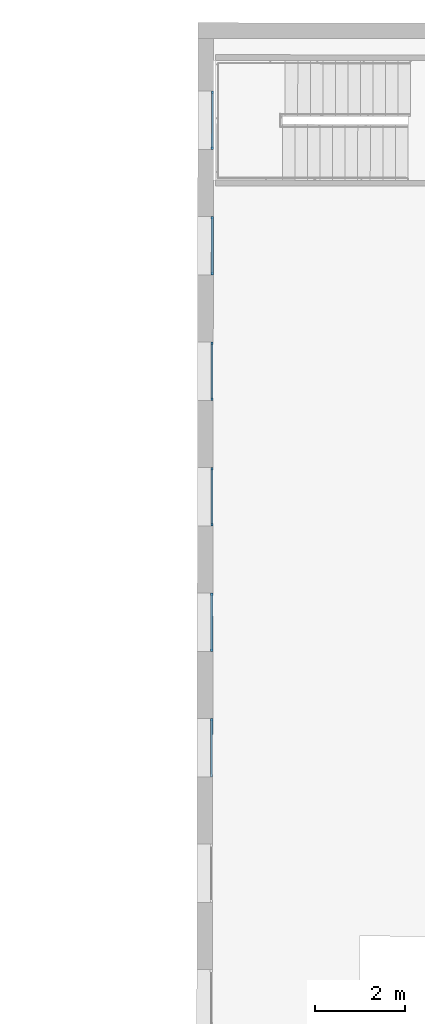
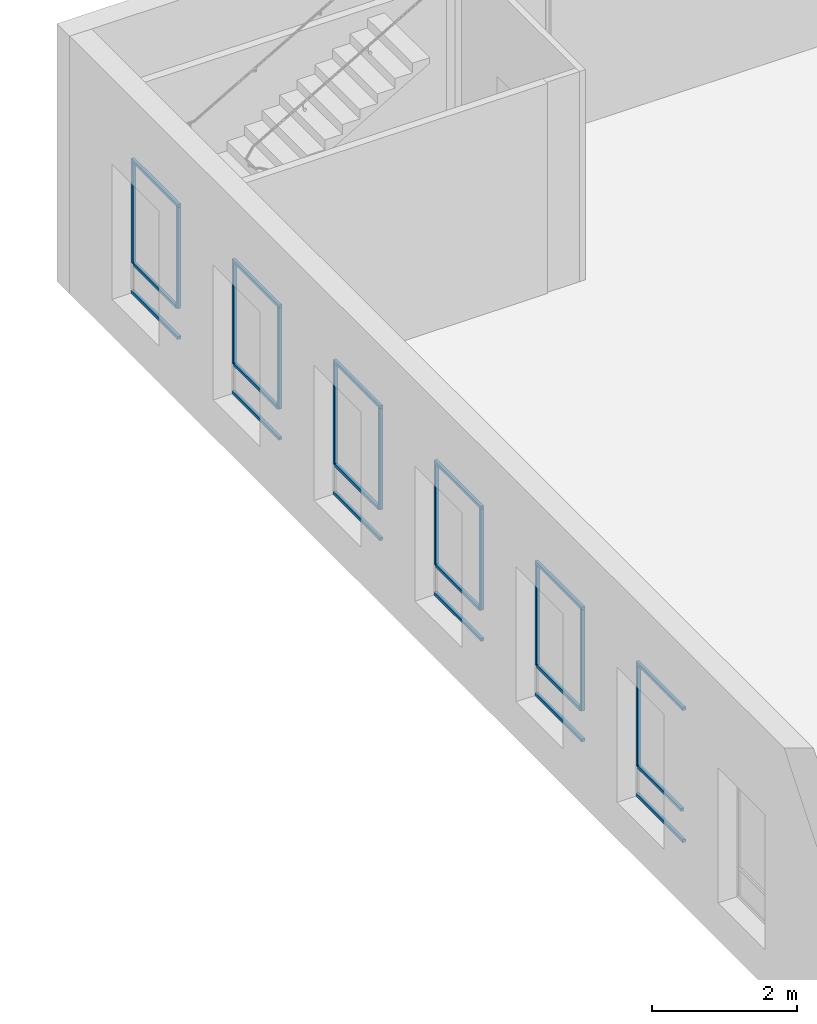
# One storey, part 10 of 35: 29 members, 6 elements without a shape of their own.
"""IFC2X3 building model written with IfcOpenShell, lengths in metres."""

from ifc_helpers import new_model, entity, si_unit, converted_unit, derived_unit, direction, frame, frame_2d, origin, origin_2d_with_axis, place, context, subcontext, project, spatial, rectangle, extrude, source, transform, mapped, material, type_object, type_shapes, element, aggregate, save


model = new_model("IFC2X3")

# Units and contexts
model_context = context("Model", 3, precision=1e-05, world=origin(), true_north=direction((6.123233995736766e-17, 1.0)))
body_context = subcontext(model_context, "Body", "Model", "MODEL_VIEW")
ifc_project = project(units=[si_unit("LENGTHUNIT", "METRE"), si_unit("AREAUNIT", "SQUARE_METRE"), converted_unit("PLANEANGLEUNIT", "DEGREE", entity("IfcPlaneAngleMeasure", 0.017453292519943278), si_unit("PLANEANGLEUNIT", "RADIAN"), dimensions=[0, 0, 0, 0, 0, 0, 0]), derived_unit("THERMALTRANSMITTANCEUNIT", [(si_unit("MASSUNIT", "GRAM", prefix="KILO"), 1), (si_unit("THERMODYNAMICTEMPERATUREUNIT", "KELVIN"), -1), (si_unit("TIMEUNIT", "SECOND"), -3)])], contexts=[model_context])

# Site, building, storey
site_placement = place(None, frame((1253.6752467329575, 2072.143113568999, 91.49999999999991), z_axis=(0.0, 0.0, 1.0), x_axis=(0.7237211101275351, 0.6900925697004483, 0.0)))
site = spatial("IfcSite", under=ifc_project, at=site_placement, Name="Surface", CompositionType="ELEMENT")
building_placement = place(site_placement, origin())
building = spatial("IfcBuilding", under=site, at=building_placement, CompositionType="ELEMENT")
storey_placement = place(building_placement, frame((0.0, 0.0, 3.549999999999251)))
storey = spatial("IfcBuildingStorey", under=building, at=storey_placement, Name="1-R+1", CompositionType="ELEMENT", Elevation=3.549999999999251)

# Curtain wall, member
curtain_wall_type = type_object("IfcCurtainWallType", Name="Mur-rideau:Menuiserie Ext 1F+1OB VERTIC", PredefinedType="NOTDEFINED")
curtain_wall_1_placement = place(storey_placement, frame((0.0, 0.0, -3.549999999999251)))
curtain_wall_1 = element("IfcCurtainWall", 1, at=curtain_wall_1_placement, inside=storey, type_object=curtain_wall_type, Name="Mur-rideau:Menuiserie Ext 1F+1OB VERTIC", ObjectType="Mur-rideau:Menuiserie Ext 1F+1OB VERTIC")
ifc_material = material(Name="OMD_Aluminium Men Ext")
member_type_1 = type_object("IfcMemberType", Name="Meneau rectangulaire:50x50", PredefinedType="MULLION", material=ifc_material)
shared_shape_1 = source(origin(), body_context, "Body", "SweptSolid", [
    extrude(rectangle(XDim=0.05, YDim=0.049999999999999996, at=origin_2d_with_axis()), frame((-0.025, 0.0, -1.2996959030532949), z_axis=(0.0, 0.0, 1.0), x_axis=(-1.0, 0.0, 0.0)), (0.0, 0.0, 1.0), 1.2996959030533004),
])
type_shapes(member_type_1, [shared_shape_1])
member_1_placement = place(curtain_wall_1_placement, frame((190.7788656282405, 2.115108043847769, 6.4499999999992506), z_axis=(0.6909838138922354, 0.7228702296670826, 0.0), x_axis=(0.0, 0.0, 1.0)))
member_1 = element("IfcMember", 2, at=member_1_placement, type_object=member_type_1, material=ifc_material, Name="Meneau rectangulaire:50x50", ObjectType="Meneau rectangulaire:50x50", context=body_context, shape_type="MappedRepresentation", body=[
    mapped(shared_shape_1, transform((0.0, 0.0, 0.0), scale=1.0)),
])

curtain_wall_2_placement = place(storey_placement, frame((0.0, 0.0, -3.549999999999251)))
curtain_wall_2 = element("IfcCurtainWall", 3, at=curtain_wall_2_placement, inside=storey, type_object=curtain_wall_type, Name="Mur-rideau:Menuiserie Ext 1F+1OB VERTIC", ObjectType="Mur-rideau:Menuiserie Ext 1F+1OB VERTIC")
member_2_placement = place(curtain_wall_2_placement, frame((188.84432107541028, 0.09129122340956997, 6.4499999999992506), z_axis=(0.6909838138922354, 0.7228702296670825, 0.0), x_axis=(0.0, 0.0, 1.0)))
member_2 = element("IfcMember", 4, at=member_2_placement, type_object=member_type_1, material=ifc_material, Name="Meneau rectangulaire:50x50", ObjectType="Meneau rectangulaire:50x50", context=body_context, shape_type="MappedRepresentation", body=[
    mapped(shared_shape_1, transform((0.0, 0.0, 0.0), scale=1.0)),
])

curtain_wall_3_placement = place(storey_placement, frame((0.0, 0.0, -3.549999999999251)))
curtain_wall_3 = element("IfcCurtainWall", 5, at=curtain_wall_3_placement, inside=storey, type_object=curtain_wall_type, Name="Mur-rideau:Menuiserie Ext 1F+1OB VERTIC", ObjectType="Mur-rideau:Menuiserie Ext 1F+1OB VERTIC")
member_3_placement = place(curtain_wall_3_placement, frame((186.90956639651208, -1.9327454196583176, 6.4499999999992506), z_axis=(0.6909838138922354, 0.7228702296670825, 0.0), x_axis=(0.0, 0.0, 1.0)))
member_3 = element("IfcMember", 6, at=member_3_placement, type_object=member_type_1, material=ifc_material, Name="Meneau rectangulaire:50x50", ObjectType="Meneau rectangulaire:50x50", context=body_context, shape_type="MappedRepresentation", body=[
    mapped(shared_shape_1, transform((0.0, 0.0, 0.0), scale=1.0)),
])

curtain_wall_4_placement = place(storey_placement, frame((0.0, 0.0, -3.549999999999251)))
curtain_wall_4 = element("IfcCurtainWall", 7, at=curtain_wall_4_placement, inside=storey, type_object=curtain_wall_type, Name="Mur-rideau:Menuiserie Ext 1F+1OB VERTIC", ObjectType="Mur-rideau:Menuiserie Ext 1F+1OB VERTIC")
member_4_placement = place(curtain_wall_4_placement, frame((184.97481171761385, -3.9567820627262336, 6.4499999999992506), z_axis=(0.6909838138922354, 0.7228702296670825, 0.0), x_axis=(0.0, 0.0, 1.0)))
member_4 = element("IfcMember", 8, at=member_4_placement, type_object=member_type_1, material=ifc_material, Name="Meneau rectangulaire:50x50", ObjectType="Meneau rectangulaire:50x50", context=body_context, shape_type="MappedRepresentation", body=[
    mapped(shared_shape_1, transform((0.0, 0.0, 0.0), scale=1.0)),
])

curtain_wall_5_placement = place(storey_placement, frame((0.0, 0.0, -3.549999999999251)))
curtain_wall_5 = element("IfcCurtainWall", 9, at=curtain_wall_5_placement, inside=storey, type_object=curtain_wall_type, Name="Mur-rideau:Menuiserie Ext 1F+1OB VERTIC", ObjectType="Mur-rideau:Menuiserie Ext 1F+1OB VERTIC")
member_5_placement = place(curtain_wall_5_placement, frame((183.04005703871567, -5.980818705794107, 6.4499999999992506), z_axis=(0.690983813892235, 0.7228702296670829, 0.0), x_axis=(0.0, 0.0, 1.0)))
member_5 = element("IfcMember", 10, at=member_5_placement, type_object=member_type_1, material=ifc_material, Name="Meneau rectangulaire:50x50", ObjectType="Meneau rectangulaire:50x50", context=body_context, shape_type="MappedRepresentation", body=[
    mapped(shared_shape_1, transform((0.0, 0.0, 0.0), scale=1.0)),
])

curtain_wall_6_placement = place(storey_placement, frame((0.0, 0.0, -3.549999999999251)))
curtain_wall_6 = element("IfcCurtainWall", 11, at=curtain_wall_6_placement, inside=storey, type_object=curtain_wall_type, Name="Mur-rideau:Menuiserie Ext 1F+1OB VERTIC", ObjectType="Mur-rideau:Menuiserie Ext 1F+1OB VERTIC")
member_6_placement = place(curtain_wall_6_placement, frame((181.1053023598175, -8.004855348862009, 6.4499999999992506), z_axis=(0.6909838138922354, 0.7228702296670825, 0.0), x_axis=(0.0, 0.0, 1.0)))
member_6 = element("IfcMember", 12, at=member_6_placement, type_object=member_type_1, material=ifc_material, Name="Meneau rectangulaire:50x50", ObjectType="Meneau rectangulaire:50x50", context=body_context, shape_type="MappedRepresentation", body=[
    mapped(shared_shape_1, transform((0.0, 0.0, 0.0), scale=1.0)),
])

# Member
member_type_2 = type_object("IfcMemberType", Name="Meneau rectangulaire:50x50", PredefinedType="MULLION", material=ifc_material)
shared_shape_2 = source(origin(), body_context, "Body", "SweptSolid", [
    extrude(rectangle(XDim=0.05, YDim=0.05, at=origin_2d_with_axis()), frame((-0.025, 0.0, -1.2996959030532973), z_axis=(0.0, 0.0, 1.0), x_axis=(-1.0, 0.0, 0.0)), (0.0, 0.0, 1.0), 1.2996959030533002),
])
type_shapes(member_type_2, [shared_shape_2])
member_7_placement = place(curtain_wall_1_placement, frame((189.88079679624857, 1.1755965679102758, 4.169999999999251), z_axis=(-0.6909838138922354, -0.7228702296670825, 0.0), x_axis=(0.0, 0.0, -1.0)))
member_7 = element("IfcMember", 13, at=member_7_placement, type_object=member_type_2, material=ifc_material, Name="Meneau rectangulaire:50x50", ObjectType="Meneau rectangulaire:50x50", context=body_context, shape_type="MappedRepresentation", body=[
    mapped(shared_shape_2, transform((0.0, 0.0, 0.0), scale=1.0)),
])

member_8_placement = place(curtain_wall_2_placement, frame((187.9462522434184, -0.8482202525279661, 4.169999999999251), z_axis=(-0.6909838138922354, -0.7228702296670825, 0.0), x_axis=(0.0, 0.0, -1.0)))
member_8 = element("IfcMember", 14, at=member_8_placement, type_object=member_type_2, material=ifc_material, Name="Meneau rectangulaire:50x50", ObjectType="Meneau rectangulaire:50x50", context=body_context, shape_type="MappedRepresentation", body=[
    mapped(shared_shape_2, transform((0.0, 0.0, 0.0), scale=1.0)),
])

member_9_placement = place(curtain_wall_3_placement, frame((186.0114975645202, -2.8722568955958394, 4.169999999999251), z_axis=(-0.6909838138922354, -0.7228702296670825, 0.0), x_axis=(0.0, 0.0, -1.0)))
member_9 = element("IfcMember", 15, at=member_9_placement, type_object=member_type_2, material=ifc_material, Name="Meneau rectangulaire:50x50", ObjectType="Meneau rectangulaire:50x50", context=body_context, shape_type="MappedRepresentation", body=[
    mapped(shared_shape_2, transform((0.0, 0.0, 0.0), scale=1.0)),
])

member_10_placement = place(curtain_wall_4_placement, frame((184.07674288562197, -4.896293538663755, 4.169999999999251), z_axis=(-0.6909838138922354, -0.7228702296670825, 0.0), x_axis=(0.0, 0.0, -1.0)))
member_10 = element("IfcMember", 16, at=member_10_placement, type_object=member_type_2, material=ifc_material, Name="Meneau rectangulaire:50x50", ObjectType="Meneau rectangulaire:50x50", context=body_context, shape_type="MappedRepresentation", body=[
    mapped(shared_shape_2, transform((0.0, 0.0, 0.0), scale=1.0)),
])

member_11_placement = place(curtain_wall_5_placement, frame((182.1419882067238, -6.9203301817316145, 4.169999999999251), z_axis=(-0.690983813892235, -0.7228702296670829, 0.0), x_axis=(0.0, 0.0, -1.0)))
member_11 = element("IfcMember", 17, at=member_11_placement, type_object=member_type_2, material=ifc_material, Name="Meneau rectangulaire:50x50", ObjectType="Meneau rectangulaire:50x50", context=body_context, shape_type="MappedRepresentation", body=[
    mapped(shared_shape_2, transform((0.0, 0.0, 0.0), scale=1.0)),
])

member_12_placement = place(curtain_wall_6_placement, frame((180.20723352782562, -8.944366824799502, 4.169999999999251), z_axis=(-0.6909838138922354, -0.7228702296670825, 0.0), x_axis=(0.0, 0.0, -1.0)))
member_12 = element("IfcMember", 18, at=member_12_placement, type_object=member_type_2, material=ifc_material, Name="Meneau rectangulaire:50x50", ObjectType="Meneau rectangulaire:50x50", context=body_context, shape_type="MappedRepresentation", body=[
    mapped(shared_shape_2, transform((0.0, 0.0, 0.0), scale=1.0)),
])

member_type_3 = type_object("IfcMemberType", Name="Meneau rectangulaire:50x50", PredefinedType="MULLION", material=ifc_material)
shared_shape_3 = source(origin(), body_context, "Body", "SweptSolid", [
    extrude(rectangle(XDim=0.05, YDim=0.049999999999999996, at=origin_2d_with_axis()), frame((-0.025, 0.0, -1.7099999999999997), z_axis=(0.0, 0.0, 1.0), x_axis=(-1.0, 0.0, 0.0)), (0.0, 0.0, 1.0), 1.7099999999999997),
])
type_shapes(member_type_3, [shared_shape_3])
member_13_placement = place(curtain_wall_1_placement, frame((189.8807967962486, 1.17559656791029, 6.399999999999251), z_axis=(0.0, 0.0, 1.0), x_axis=(-0.6909838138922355, -0.7228702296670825, 0.0)))
member_13 = element("IfcMember", 19, at=member_13_placement, type_object=member_type_3, material=ifc_material, Name="Meneau rectangulaire:50x50", ObjectType="Meneau rectangulaire:50x50", context=body_context, shape_type="MappedRepresentation", body=[
    mapped(shared_shape_3, transform((0.0, 0.0, 0.0), scale=1.0)),
])

member_14_placement = place(curtain_wall_2_placement, frame((187.94625224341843, -0.8482202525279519, 6.399999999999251), z_axis=(0.0, 0.0, 1.0), x_axis=(-0.6909838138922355, -0.7228702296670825, 0.0)))
member_14 = element("IfcMember", 20, at=member_14_placement, type_object=member_type_3, material=ifc_material, Name="Meneau rectangulaire:50x50", ObjectType="Meneau rectangulaire:50x50", context=body_context, shape_type="MappedRepresentation", body=[
    mapped(shared_shape_3, transform((0.0, 0.0, 0.0), scale=1.0)),
])

member_15_placement = place(curtain_wall_3_placement, frame((186.01149756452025, -2.8722568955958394, 6.399999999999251), z_axis=(0.0, 0.0, 1.0), x_axis=(-0.6909838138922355, -0.7228702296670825, 0.0)))
member_15 = element("IfcMember", 21, at=member_15_placement, type_object=member_type_3, material=ifc_material, Name="Meneau rectangulaire:50x50", ObjectType="Meneau rectangulaire:50x50", context=body_context, shape_type="MappedRepresentation", body=[
    mapped(shared_shape_3, transform((0.0, 0.0, 0.0), scale=1.0)),
])

member_16_placement = place(curtain_wall_4_placement, frame((184.07674288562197, -4.896293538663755, 6.399999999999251), z_axis=(0.0, 0.0, 1.0), x_axis=(-0.6909838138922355, -0.7228702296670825, 0.0)))
member_16 = element("IfcMember", 22, at=member_16_placement, type_object=member_type_3, material=ifc_material, Name="Meneau rectangulaire:50x50", ObjectType="Meneau rectangulaire:50x50", context=body_context, shape_type="MappedRepresentation", body=[
    mapped(shared_shape_3, transform((0.0, 0.0, 0.0), scale=1.0)),
])

member_17_placement = place(curtain_wall_5_placement, frame((182.1419882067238, -6.9203301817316, 6.399999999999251), z_axis=(0.0, 0.0, 1.0), x_axis=(-0.6909838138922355, -0.7228702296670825, 0.0)))
member_17 = element("IfcMember", 23, at=member_17_placement, type_object=member_type_3, material=ifc_material, Name="Meneau rectangulaire:50x50", ObjectType="Meneau rectangulaire:50x50", context=body_context, shape_type="MappedRepresentation", body=[
    mapped(shared_shape_3, transform((0.0, 0.0, 0.0), scale=1.0)),
])

member_type_4 = type_object("IfcMemberType", Name="Meneau rectangulaire:50x50", PredefinedType="MULLION", material=ifc_material)
shared_shape_4 = source(origin(), body_context, "Body", "SweptSolid", [
    extrude(rectangle(XDim=0.05, YDim=0.049999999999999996, at=origin_2d_with_axis()), frame((-0.025, 0.0, -1.7099999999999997), z_axis=(0.0, 0.0, 1.0), x_axis=(-1.0, 0.0, 0.0)), (0.0, 0.0, 1.0), 1.7099999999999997),
])
type_shapes(member_type_4, [shared_shape_4])
member_18_placement = place(curtain_wall_1_placement, frame((190.7788656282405, 2.115108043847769, 4.689999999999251), z_axis=(0.0, 0.0, -1.0), x_axis=(0.6909838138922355, 0.7228702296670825, 0.0)))
member_18 = element("IfcMember", 24, at=member_18_placement, type_object=member_type_4, material=ifc_material, Name="Meneau rectangulaire:50x50", ObjectType="Meneau rectangulaire:50x50", context=body_context, shape_type="MappedRepresentation", body=[
    mapped(shared_shape_4, transform((0.0, 0.0, 0.0), scale=1.0)),
])

member_19_placement = place(curtain_wall_2_placement, frame((188.84432107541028, 0.09129122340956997, 4.689999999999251), z_axis=(0.0, 0.0, -1.0), x_axis=(0.6909838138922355, 0.7228702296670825, 0.0)))
member_19 = element("IfcMember", 25, at=member_19_placement, type_object=member_type_4, material=ifc_material, Name="Meneau rectangulaire:50x50", ObjectType="Meneau rectangulaire:50x50", context=body_context, shape_type="MappedRepresentation", body=[
    mapped(shared_shape_4, transform((0.0, 0.0, 0.0), scale=1.0)),
])

member_20_placement = place(curtain_wall_3_placement, frame((186.9095663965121, -1.9327454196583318, 4.689999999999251), z_axis=(0.0, 0.0, -1.0), x_axis=(0.6909838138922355, 0.7228702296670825, 0.0)))
member_20 = element("IfcMember", 26, at=member_20_placement, type_object=member_type_4, material=ifc_material, Name="Meneau rectangulaire:50x50", ObjectType="Meneau rectangulaire:50x50", context=body_context, shape_type="MappedRepresentation", body=[
    mapped(shared_shape_4, transform((0.0, 0.0, 0.0), scale=1.0)),
])

member_21_placement = place(curtain_wall_4_placement, frame((184.97481171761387, -3.9567820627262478, 4.689999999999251), z_axis=(0.0, 0.0, -1.0), x_axis=(0.6909838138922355, 0.7228702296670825, 0.0)))
member_21 = element("IfcMember", 27, at=member_21_placement, type_object=member_type_4, material=ifc_material, Name="Meneau rectangulaire:50x50", ObjectType="Meneau rectangulaire:50x50", context=body_context, shape_type="MappedRepresentation", body=[
    mapped(shared_shape_4, transform((0.0, 0.0, 0.0), scale=1.0)),
])

member_22_placement = place(curtain_wall_5_placement, frame((183.0400570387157, -5.980818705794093, 4.689999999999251), z_axis=(0.0, 0.0, -1.0), x_axis=(0.6909838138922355, 0.7228702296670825, 0.0)))
member_22 = element("IfcMember", 28, at=member_22_placement, type_object=member_type_4, material=ifc_material, Name="Meneau rectangulaire:50x50", ObjectType="Meneau rectangulaire:50x50", context=body_context, shape_type="MappedRepresentation", body=[
    mapped(shared_shape_4, transform((0.0, 0.0, 0.0), scale=1.0)),
])

member_23_placement = place(curtain_wall_6_placement, frame((181.10530235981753, -8.004855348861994, 4.689999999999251), z_axis=(0.0, 0.0, -1.0), x_axis=(0.6909838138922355, 0.7228702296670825, 0.0)))
member_23 = element("IfcMember", 29, at=member_23_placement, type_object=member_type_4, material=ifc_material, Name="Meneau rectangulaire:50x50", ObjectType="Meneau rectangulaire:50x50", context=body_context, shape_type="MappedRepresentation", body=[
    mapped(shared_shape_4, transform((0.0, 0.0, 0.0), scale=1.0)),
])

member_type_5 = type_object("IfcMemberType", Name="Meneau rectangulaire:50x50", PredefinedType="MULLION", material=ifc_material)
shared_shape_5 = source(origin(), body_context, "Body", "SweptSolid", [
    extrude(rectangle(XDim=0.05, YDim=0.05, at=frame_2d((0.0, -1.734723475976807e-18), x_axis=(1.0, 0.0))), frame((0.0, 0.0, -1.1996959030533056), z_axis=(0.0, 0.0, 1.0), x_axis=(-1.0, 0.0, 0.0)), (0.0, 0.0, 1.0), 1.1996959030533),
])
type_shapes(member_type_5, [shared_shape_5])
member_24_placement = place(curtain_wall_1_placement, frame((190.74431643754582, 2.078964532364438, 4.689999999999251), z_axis=(0.6909838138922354, 0.7228702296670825, 0.0), x_axis=(0.0, 0.0, 1.0)))
member_24 = element("IfcMember", 30, at=member_24_placement, type_object=member_type_5, material=ifc_material, Name="Meneau rectangulaire:50x50", ObjectType="Meneau rectangulaire:50x50", context=body_context, shape_type="MappedRepresentation", body=[
    mapped(shared_shape_5, transform((0.0, 0.0, 0.0), scale=1.0)),
])

aggregate(curtain_wall_1, [member_1, member_7, member_13, member_18, member_24])

member_25_placement = place(curtain_wall_2_placement, frame((188.80977188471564, 0.05514771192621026, 4.689999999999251), z_axis=(0.6909838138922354, 0.7228702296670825, 0.0), x_axis=(0.0, 0.0, 1.0)))
member_25 = element("IfcMember", 31, at=member_25_placement, type_object=member_type_5, material=ifc_material, Name="Meneau rectangulaire:50x50", ObjectType="Meneau rectangulaire:50x50", context=body_context, shape_type="MappedRepresentation", body=[
    mapped(shared_shape_5, transform((0.0, 0.0, 0.0), scale=1.0)),
])

aggregate(curtain_wall_2, [member_2, member_8, member_14, member_19, member_25])

member_26_placement = place(curtain_wall_3_placement, frame((186.87501720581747, -1.9688889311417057, 4.689999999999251), z_axis=(0.6909838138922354, 0.7228702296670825, 0.0), x_axis=(0.0, 0.0, 1.0)))
member_26 = element("IfcMember", 32, at=member_26_placement, type_object=member_type_5, material=ifc_material, Name="Meneau rectangulaire:50x50", ObjectType="Meneau rectangulaire:50x50", context=body_context, shape_type="MappedRepresentation", body=[
    mapped(shared_shape_5, transform((0.0, 0.0, 0.0), scale=1.0)),
])

aggregate(curtain_wall_3, [member_3, member_9, member_15, member_20, member_26])

member_27_placement = place(curtain_wall_4_placement, frame((184.94026252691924, -3.9929255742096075, 4.689999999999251), z_axis=(0.6909838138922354, 0.7228702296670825, 0.0), x_axis=(0.0, 0.0, 1.0)))
member_27 = element("IfcMember", 33, at=member_27_placement, type_object=member_type_5, material=ifc_material, Name="Meneau rectangulaire:50x50", ObjectType="Meneau rectangulaire:50x50", context=body_context, shape_type="MappedRepresentation", body=[
    mapped(shared_shape_5, transform((0.0, 0.0, 0.0), scale=1.0)),
])

aggregate(curtain_wall_4, [member_4, member_10, member_16, member_21, member_27])

member_28_placement = place(curtain_wall_5_placement, frame((183.00550784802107, -6.016962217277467, 4.689999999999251), z_axis=(0.690983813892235, 0.7228702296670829, 0.0), x_axis=(0.0, 0.0, 1.0)))
member_28 = element("IfcMember", 34, at=member_28_placement, type_object=member_type_5, material=ifc_material, Name="Meneau rectangulaire:50x50", ObjectType="Meneau rectangulaire:50x50", context=body_context, shape_type="MappedRepresentation", body=[
    mapped(shared_shape_5, transform((0.0, 0.0, 0.0), scale=1.0)),
])

aggregate(curtain_wall_5, [member_5, member_11, member_17, member_22, member_28])

member_29_placement = place(curtain_wall_6_placement, frame((181.0707531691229, -8.040998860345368, 4.689999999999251), z_axis=(0.6909838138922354, 0.7228702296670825, 0.0), x_axis=(0.0, 0.0, 1.0)))
member_29 = element("IfcMember", 35, at=member_29_placement, type_object=member_type_5, material=ifc_material, Name="Meneau rectangulaire:50x50", ObjectType="Meneau rectangulaire:50x50", context=body_context, shape_type="MappedRepresentation", body=[
    mapped(shared_shape_5, transform((0.0, 0.0, 0.0), scale=1.0)),
])

aggregate(curtain_wall_6, [member_6, member_12, member_23, member_29])

save(model, "model.ifc")
